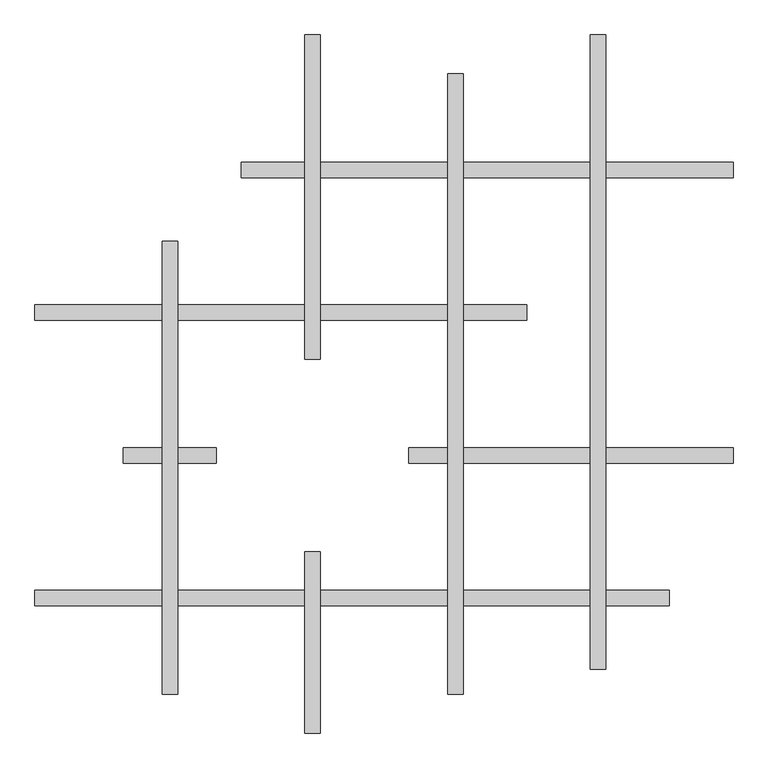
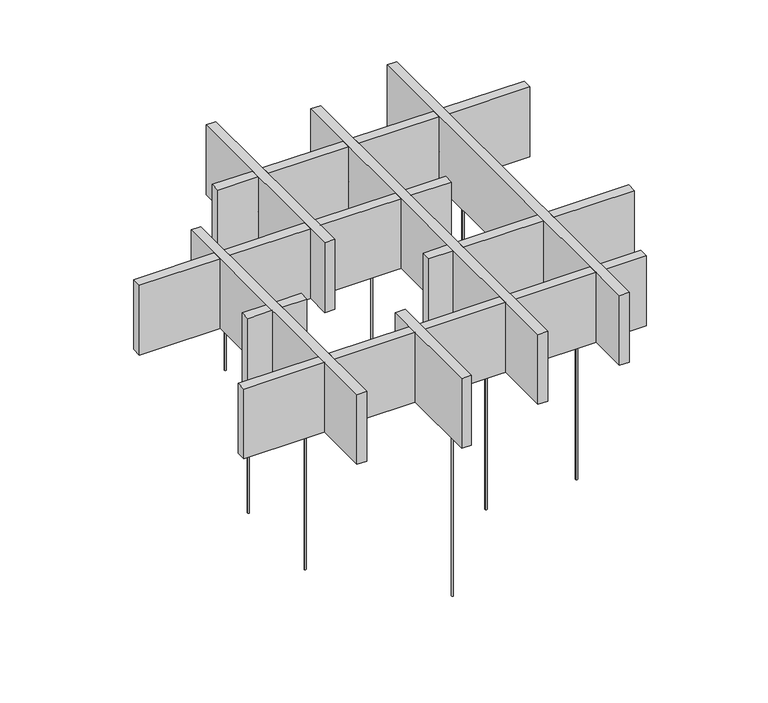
"""IFC4 building model written with IfcOpenShell, lengths in millimetres: proxy geometry, OWA FreeStyle cells : FreeStyle cells Asymmetrical."""

from ifc_helpers import new_model, si_unit, point, frame, frame_2d, origin, origin_with_axes, place, context, project, spatial, polyline, circle_curve, trimmed, segment, composite_curve, outline, extrude, source, transform, mapped, element, save


def specialty_equipment_15bdfbe5(model_context):
    return source(origin(), model_context, "Body", "SweptSolid", [
        extrude(outline(polyline([(-623.2735027, 799.9968737), (-620.3867513, 804.9968737), (-614.6132487, 804.9968737), (-611.7264973, 799.9968737), (-614.6132487, 794.9968737), (-620.3867513, 794.9968737), (-623.2735027, 799.9968737)]), holes=[composite_curve([segment(trimmed(circle_curve(frame_2d((-617.5, 799.9968737)), 3.85), [point((-621.35, 799.9968737))], [point((-613.65, 799.9968737))], True, "CARTESIAN"), True, "CONTINUOUS"), segment(trimmed(circle_curve(frame_2d((-617.5, 799.9968737)), 3.85), [point((-613.65, 799.9968737))], [point((-621.35, 799.9968737))], True, "CARTESIAN"), True, "CONTINUOUS")], self_intersect=False)]), frame((0.0, 0.0, 695.0), z_axis=(0.0, 0.0, 1.0), x_axis=(1.0, 0.0, 0.0)), (0.0, 0.0, 1.0), 5.0),
        extrude(outline(composite_curve([segment(trimmed(circle_curve(frame_2d((-617.5, 799.9968737)), 3.85), [point((-621.35, 799.9968737))], [point((-613.65, 799.9968737))], False, "CARTESIAN"), True, "CONTINUOUS"), segment(trimmed(circle_curve(frame_2d((-617.5, 799.9968737)), 3.85), [point((-613.65, 799.9968737))], [point((-621.35, 799.9968737))], False, "CARTESIAN"), True, "CONTINUOUS")], self_intersect=False)), origin_with_axes(), (0.0, 0.0, 1.0), 700.0),
        extrude(outline(polyline([(-623.2735027, -800.0031263), (-620.3867513, -795.0031263), (-614.6132487, -795.0031263), (-611.7264973, -800.0031263), (-614.6132487, -805.0031263), (-620.3867513, -805.0031263), (-623.2735027, -800.0031263)]), holes=[composite_curve([segment(trimmed(circle_curve(frame_2d((-617.5, -800.0031263)), 3.85), [point((-621.35, -800.0031263))], [point((-613.65, -800.0031263))], True, "CARTESIAN"), True, "CONTINUOUS"), segment(trimmed(circle_curve(frame_2d((-617.5, -800.0031263)), 3.85), [point((-613.65, -800.0031263))], [point((-621.35, -800.0031263))], True, "CARTESIAN"), True, "CONTINUOUS")], self_intersect=False)]), frame((0.0, 0.0, 695.0), z_axis=(0.0, 0.0, 1.0), x_axis=(1.0, 0.0, 0.0)), (0.0, 0.0, 1.0), 5.0),
        extrude(outline(composite_curve([segment(trimmed(circle_curve(frame_2d((-617.5, -800.0031263)), 3.85), [point((-621.35, -800.0031263))], [point((-613.65, -800.0031263))], False, "CARTESIAN"), True, "CONTINUOUS"), segment(trimmed(circle_curve(frame_2d((-617.5, -800.0031263)), 3.85), [point((-613.65, -800.0031263))], [point((-621.35, -800.0031263))], False, "CARTESIAN"), True, "CONTINUOUS")], self_intersect=False)), origin_with_axes(), (0.0, 0.0, 1.0), 700.0),
        extrude(outline(polyline([(112.7264973, -400.0031263), (115.6132487, -395.0031263), (121.3867513, -395.0031263), (124.2735027, -400.0031263), (121.3867513, -405.0031263), (115.6132487, -405.0031263), (112.7264973, -400.0031263)]), holes=[composite_curve([segment(trimmed(circle_curve(frame_2d((118.5, -400.0031263)), 3.85), [point((114.65, -400.0031263))], [point((122.35, -400.0031263))], True, "CARTESIAN"), True, "CONTINUOUS"), segment(trimmed(circle_curve(frame_2d((118.5, -400.0031263)), 3.85), [point((122.35, -400.0031263))], [point((114.65, -400.0031263))], True, "CARTESIAN"), True, "CONTINUOUS")], self_intersect=False)]), frame((0.0, 0.0, 695.0), z_axis=(0.0, 0.0, 1.0), x_axis=(1.0, 0.0, 0.0)), (0.0, 0.0, 1.0), 5.0),
        extrude(outline(composite_curve([segment(trimmed(circle_curve(frame_2d((118.5, -400.0031263)), 3.85), [point((114.65, -400.0031263))], [point((122.35, -400.0031263))], False, "CARTESIAN"), True, "CONTINUOUS"), segment(trimmed(circle_curve(frame_2d((118.5, -400.0031263)), 3.85), [point((122.35, -400.0031263))], [point((114.65, -400.0031263))], False, "CARTESIAN"), True, "CONTINUOUS")], self_intersect=False)), origin_with_axes(), (0.0, 0.0, 1.0), 700.0),
        extrude(outline(polyline([(-255.2735027, -400.0031263), (-252.3867513, -395.0031263), (-246.6132487, -395.0031263), (-243.7264973, -400.0031263), (-246.6132487, -405.0031263), (-252.3867513, -405.0031263), (-255.2735027, -400.0031263)]), holes=[composite_curve([segment(trimmed(circle_curve(frame_2d((-249.5, -400.0031263)), 3.85), [point((-253.35, -400.0031263))], [point((-245.65, -400.0031263))], True, "CARTESIAN"), True, "CONTINUOUS"), segment(trimmed(circle_curve(frame_2d((-249.5, -400.0031263)), 3.85), [point((-245.65, -400.0031263))], [point((-253.35, -400.0031263))], True, "CARTESIAN"), True, "CONTINUOUS")], self_intersect=False)]), frame((0.0, 0.0, 695.0), z_axis=(0.0, 0.0, 1.0), x_axis=(1.0, 0.0, 0.0)), (0.0, 0.0, 1.0), 5.0),
        extrude(outline(composite_curve([segment(trimmed(circle_curve(frame_2d((-249.5, -400.0031263)), 3.85), [point((-253.35, -400.0031263))], [point((-245.65, -400.0031263))], False, "CARTESIAN"), True, "CONTINUOUS"), segment(trimmed(circle_curve(frame_2d((-249.5, -400.0031263)), 3.85), [point((-245.65, -400.0031263))], [point((-253.35, -400.0031263))], False, "CARTESIAN"), True, "CONTINUOUS")], self_intersect=False)), origin_with_axes(), (0.0, 0.0, 1.0), 700.0),
        extrude(outline(polyline([(-257.9529946, 399.9968737), (-255.0662433, 404.9968737), (-249.2927406, 404.9968737), (-246.4059892, 399.9968737), (-249.2927406, 394.9968737), (-255.0662433, 394.9968737), (-257.9529946, 399.9968737)]), holes=[composite_curve([segment(trimmed(circle_curve(frame_2d((-252.1794919, 399.9968737)), 3.85), [point((-256.0294919, 399.9968737))], [point((-248.3294919, 399.9968737))], True, "CARTESIAN"), True, "CONTINUOUS"), segment(trimmed(circle_curve(frame_2d((-252.1794919, 399.9968737)), 3.85), [point((-248.3294919, 399.9968737))], [point((-256.0294919, 399.9968737))], True, "CARTESIAN"), True, "CONTINUOUS")], self_intersect=False)]), frame((0.0, 0.0, 695.0), z_axis=(0.0, 0.0, 1.0), x_axis=(1.0, 0.0, 0.0)), (0.0, 0.0, 1.0), 5.0),
        extrude(outline(composite_curve([segment(trimmed(circle_curve(frame_2d((-252.1794919, 399.9968737)), 3.85), [point((-256.0294919, 399.9968737))], [point((-248.3294919, 399.9968737))], False, "CARTESIAN"), True, "CONTINUOUS"), segment(trimmed(circle_curve(frame_2d((-252.1794919, 399.9968737)), 3.85), [point((-248.3294919, 399.9968737))], [point((-256.0294919, 399.9968737))], False, "CARTESIAN"), True, "CONTINUOUS")], self_intersect=False)), origin_with_axes(), (0.0, 0.0, 1.0), 700.0),
        extrude(outline(polyline([(112.7264973, 399.9968737), (115.6132487, 404.9968737), (121.3867513, 404.9968737), (124.2735027, 399.9968737), (121.3867513, 394.9968737), (115.6132487, 394.9968737), (112.7264973, 399.9968737)]), holes=[composite_curve([segment(trimmed(circle_curve(frame_2d((118.5, 399.9968737)), 3.85), [point((114.65, 399.9968737))], [point((122.35, 399.9968737))], True, "CARTESIAN"), True, "CONTINUOUS"), segment(trimmed(circle_curve(frame_2d((118.5, 399.9968737)), 3.85), [point((122.35, 399.9968737))], [point((114.65, 399.9968737))], True, "CARTESIAN"), True, "CONTINUOUS")], self_intersect=False)]), frame((0.0, 0.0, 695.0), z_axis=(0.0, 0.0, 1.0), x_axis=(1.0, 0.0, 0.0)), (0.0, 0.0, 1.0), 5.0),
        extrude(outline(composite_curve([segment(trimmed(circle_curve(frame_2d((118.5, 399.9968737)), 3.85), [point((114.65, 399.9968737))], [point((122.35, 399.9968737))], False, "CARTESIAN"), True, "CONTINUOUS"), segment(trimmed(circle_curve(frame_2d((118.5, 399.9968737)), 3.85), [point((122.35, 399.9968737))], [point((114.65, 399.9968737))], False, "CARTESIAN"), True, "CONTINUOUS")], self_intersect=False)), origin_with_axes(), (0.0, 0.0, 1.0), 700.0),
        extrude(outline(polyline([(-623.2735027, 399.9968737), (-620.3867513, 404.9968737), (-614.6132487, 404.9968737), (-611.7264973, 399.9968737), (-614.6132487, 394.9968737), (-620.3867513, 394.9968737), (-623.2735027, 399.9968737)]), holes=[composite_curve([segment(trimmed(circle_curve(frame_2d((-617.5, 399.9968737)), 3.85), [point((-621.35, 399.9968737))], [point((-613.65, 399.9968737))], True, "CARTESIAN"), True, "CONTINUOUS"), segment(trimmed(circle_curve(frame_2d((-617.5, 399.9968737)), 3.85), [point((-613.65, 399.9968737))], [point((-621.35, 399.9968737))], True, "CARTESIAN"), True, "CONTINUOUS")], self_intersect=False)]), frame((0.0, 0.0, 695.0), z_axis=(0.0, 0.0, 1.0), x_axis=(1.0, 0.0, 0.0)), (0.0, 0.0, 1.0), 5.0),
        extrude(outline(composite_curve([segment(trimmed(circle_curve(frame_2d((-617.5, 399.9968737)), 3.85), [point((-621.35, 399.9968737))], [point((-613.65, 399.9968737))], False, "CARTESIAN"), True, "CONTINUOUS"), segment(trimmed(circle_curve(frame_2d((-617.5, 399.9968737)), 3.85), [point((-613.65, 399.9968737))], [point((-621.35, 399.9968737))], False, "CARTESIAN"), True, "CONTINUOUS")], self_intersect=False)), origin_with_axes(), (0.0, 0.0, 1.0), 700.0),
        extrude(outline(polyline([(-991.0586664, 0.0), (-988.1719151, 5.0), (-982.3984124, 5.0), (-979.511661, 0.0), (-982.3984124, -5.0), (-988.1719151, -5.0), (-991.0586664, 0.0)]), holes=[composite_curve([segment(trimmed(circle_curve(frame_2d((-985.2851637, 0.0)), 3.85), [point((-989.1351637, 0.0))], [point((-981.4351637, 0.0))], True, "CARTESIAN"), True, "CONTINUOUS"), segment(trimmed(circle_curve(frame_2d((-985.2851637, 0.0)), 3.85), [point((-981.4351637, 0.0))], [point((-989.1351637, 0.0))], True, "CARTESIAN"), True, "CONTINUOUS")], self_intersect=False)]), frame((0.0, 0.0, 695.0), z_axis=(0.0, 0.0, 1.0), x_axis=(1.0, 0.0, 0.0)), (0.0, 0.0, 1.0), 5.0),
        extrude(outline(composite_curve([segment(trimmed(circle_curve(frame_2d((-985.2851637, 0.0)), 3.85), [point((-989.1351637, 0.0))], [point((-981.4351637, 0.0))], False, "CARTESIAN"), True, "CONTINUOUS"), segment(trimmed(circle_curve(frame_2d((-985.2851637, 0.0)), 3.85), [point((-981.4351637, 0.0))], [point((-989.1351637, 0.0))], False, "CARTESIAN"), True, "CONTINUOUS")], self_intersect=False)), origin_with_axes(), (0.0, 0.0, 1.0), 700.0),
        extrude(outline(polyline([(-991.0586664, -400.2179626), (-988.1719151, -395.2179626), (-982.3984124, -395.2179626), (-979.511661, -400.2179626), (-982.3984124, -405.2179626), (-988.1719151, -405.2179626), (-991.0586664, -400.2179626)]), holes=[composite_curve([segment(trimmed(circle_curve(frame_2d((-985.2851637, -400.2179626)), 3.85), [point((-989.1351637, -400.2179626))], [point((-981.4351637, -400.2179626))], True, "CARTESIAN"), True, "CONTINUOUS"), segment(trimmed(circle_curve(frame_2d((-985.2851637, -400.2179626)), 3.85), [point((-981.4351637, -400.2179626))], [point((-989.1351637, -400.2179626))], True, "CARTESIAN"), True, "CONTINUOUS")], self_intersect=False)]), frame((0.0, 0.0, 695.0), z_axis=(0.0, 0.0, 1.0), x_axis=(1.0, 0.0, 0.0)), (0.0, 0.0, 1.0), 5.0),
        extrude(outline(composite_curve([segment(trimmed(circle_curve(frame_2d((-985.2851637, -400.2179626)), 3.85), [point((-989.1351637, -400.2179626))], [point((-981.4351637, -400.2179626))], False, "CARTESIAN"), True, "CONTINUOUS"), segment(trimmed(circle_curve(frame_2d((-985.2851637, -400.2179626)), 3.85), [point((-981.4351637, -400.2179626))], [point((-989.1351637, -400.2179626))], False, "CARTESIAN"), True, "CONTINUOUS")], self_intersect=False)), origin_with_axes(), (0.0, 0.0, 1.0), 700.0),
        extrude(outline(polyline([(64.0, 1000.0), (900.0, 1000.0), (900.0, 700.0), (572.0, 700.0), (572.0, 850.0), (532.0, 850.0), (532.0, 700.0), (204.0, 700.0), (204.0, 850.0), (164.0, 850.0), (164.0, 700.0), (64.0, 700.0), (64.0, 1000.0)])), frame((-637.5, 0.0, 0.0), z_axis=(1.0, 0.0, 0.0), x_axis=(0.0, 1.0, 0.0)), (0.0, 0.0, 1.0), 40.0),
        extrude(outline(polyline([(-900.0, 1000.0), (-432.0, 1000.0), (-432.0, 700.0), (-532.0, 700.0), (-532.0, 850.0), (-572.0, 850.0), (-572.0, 700.0), (-900.0, 700.0), (-900.0, 1000.0)])), frame((-637.5, 0.0, 0.0), z_axis=(1.0, 0.0, 0.0), x_axis=(0.0, 1.0, 0.0)), (0.0, 0.0, 1.0), 40.0),
        extrude(outline(polyline([(-735.9985645, 1000.0), (900.0, 1000.0), (900.0, 700.0), (572.0, 700.0), (572.0, 850.0), (532.0, 850.0), (532.0, 700.0), (-164.0, 700.0), (-164.0, 850.0), (-204.0, 850.0), (-204.0, 700.0), (-532.0, 700.0), (-532.0, 850.0), (-572.0, 850.0), (-572.0, 700.0), (-735.9985645, 700.0), (-735.9985645, 1000.0)])), frame((98.5, 0.0, 0.0), z_axis=(1.0, 0.0, 0.0), x_axis=(0.0, 1.0, 0.0)), (0.0, 0.0, 1.0), 40.0),
        extrude(outline(polyline([(-800.0, 1000.0), (799.9968737, 1000.0), (799.9968737, 700.0), (572.0, 700.0), (572.0, 850.0), (532.0, 850.0), (532.0, 700.0), (204.0, 700.0), (204.0, 850.0), (164.0, 850.0), (164.0, 700.0), (-164.0, 700.0), (-164.0, 850.0), (-204.0, 850.0), (-204.0, 700.0), (-532.0, 700.0), (-532.0, 850.0), (-572.0, 850.0), (-572.0, 700.0), (-800.0, 700.0), (-800.0, 1000.0)])), frame((-269.5, 0.0, 0.0), z_axis=(1.0, 0.0, 0.0), x_axis=(0.0, 1.0, 0.0)), (0.0, 0.0, 1.0), 40.0),
        extrude(outline(polyline([(-800.0, 1000.0), (368.00478, 1000.0), (368.00478, 700.0), (204.0, 700.0), (204.0, 850.0), (164.0, 850.0), (164.0, 700.0), (-164.0, 700.0), (-164.0, 850.0), (-204.0, 850.0), (-204.0, 700.0), (-532.0, 700.0), (-532.0, 850.0), (-572.0, 850.0), (-572.0, 700.0), (-800.0, 700.0), (-800.0, 1000.0)])), frame((-1005.5, 0.0, 0.0), z_axis=(1.0, 0.0, 0.0), x_axis=(0.0, 1.0, 0.0)), (0.0, 0.0, 1.0), 40.0),
        extrude(outline(polyline([(700.0, 302.5), (1000.0, 302.5), (1000.0, 138.5), (850.0, 138.5), (850.0, 98.5), (1000.0, 98.5), (1000.0, -229.5), (850.0, -229.5), (850.0, -269.5), (1000.0, -269.5), (1000.0, -597.5), (850.0, -597.5), (850.0, -637.5), (1000.0, -637.5), (1000.0, -965.5), (850.0, -965.5), (850.0, -1005.5), (1000.0, -1005.5), (1000.0, -1333.5), (700.0, -1333.5), (700.0, 302.5)])), frame((0.0, -572.0, 0.0), z_axis=(0.0, 1.0, 0.0), x_axis=(0.0, 0.0, 1.0)), (0.0, 0.0, 1.0), 40.0),
        extrude(outline(polyline([(700.0, -865.5), (1000.0, -865.5), (1000.0, -965.5), (850.0, -965.5), (850.0, -1005.5), (1000.0, -1005.5), (1000.0, -1105.5), (700.0, -1105.5), (700.0, -865.5)])), frame((0.0, -204.0, 0.0), z_axis=(0.0, 1.0, 0.0), x_axis=(0.0, 0.0, 1.0)), (0.0, 0.0, 1.0), 40.0),
        extrude(outline(polyline([(700.0, 466.5), (1000.0, 466.5), (1000.0, 138.5), (850.0, 138.5), (850.0, 98.5), (1000.0, 98.5), (1000.0, -229.5), (850.0, -229.5), (850.0, -269.5), (1000.0, -269.5), (1000.0, -369.5), (700.0, -369.5), (700.0, 466.5)])), frame((0.0, -204.0, 0.0), z_axis=(0.0, 1.0, 0.0), x_axis=(0.0, 0.0, 1.0)), (0.0, 0.0, 1.0), 40.0),
        extrude(outline(polyline([(700.0, -65.5), (1000.0, -65.5), (1000.0, -229.5), (850.0, -229.5), (850.0, -269.5), (1000.0, -269.5), (1000.0, -597.5), (850.0, -597.5), (850.0, -637.5), (1000.0, -637.5), (1000.0, -965.5), (850.0, -965.5), (850.0, -1005.5), (1000.0, -1005.5), (1000.0, -1333.5), (700.0, -1333.5), (700.0, -65.5)])), frame((0.0, 164.0, 0.0), z_axis=(0.0, 1.0, 0.0), x_axis=(0.0, 0.0, 1.0)), (0.0, 0.0, 1.0), 40.0),
        extrude(outline(polyline([(700.0, 466.5), (1000.0, 466.5), (1000.0, 138.5), (850.0, 138.5), (850.0, 98.5), (1000.0, 98.5), (1000.0, -229.5), (850.0, -229.5), (850.0, -269.5), (1000.0, -269.5), (1000.0, -597.5), (850.0, -597.5), (850.0, -637.5), (1000.0, -637.5), (1000.0, -801.5), (700.0, -801.5), (700.0, 466.5)])), frame((0.0, 532.0, 0.0), z_axis=(0.0, 1.0, 0.0), x_axis=(0.0, 0.0, 1.0)), (0.0, 0.0, 1.0), 40.0),
    ])


if __name__ == "__main__":
    model = new_model("IFC4")
    model_context = context("Model", 3, world=origin())
    ifc_project = project(units=[si_unit("LENGTHUNIT", "METRE", prefix="MILLI")], contexts=[model_context])
    site = spatial("IfcSite", under=ifc_project)
    building = spatial("IfcBuilding", under=site)
    placement = place(None, origin())
    specialty_equipment_shape = specialty_equipment_15bdfbe5(model_context)
    element("IfcBuildingElementProxy", 1, Name="OWA FreeStyle cells : FreeStyle cells Asymmetrical", ObjectType="OWA FreeStyle cells : FreeStyle cells Asymmetrical", at=placement, inside=building, context=model_context, shape_type="MappedRepresentation", body=[
        mapped(specialty_equipment_shape, transform((0.0, 0.0, 0.0), x_axis=(1.0, 0.0, 0.0), y_axis=(0.0, 1.0, 0.0), z_axis=(0.0, 0.0, 1.0))),
    ])
    save(model, "model.ifc")
